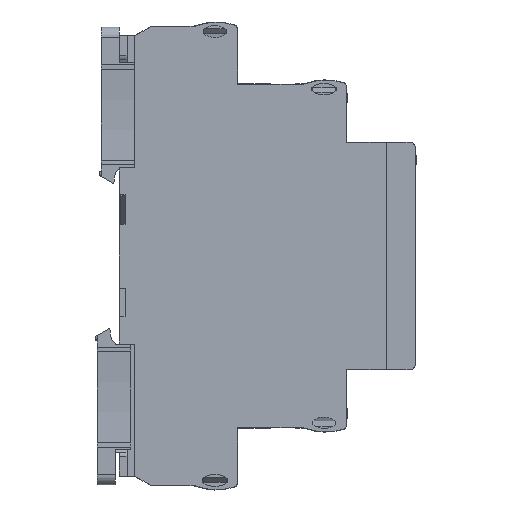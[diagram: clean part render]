
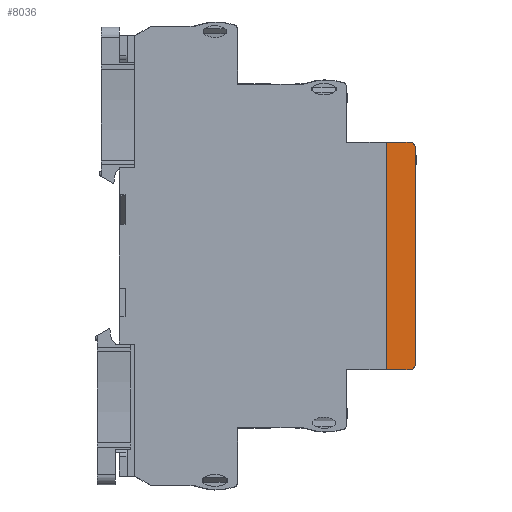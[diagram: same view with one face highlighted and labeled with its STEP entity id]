
A CAD part, front view. The second image highlights one B-rep face of the part: STEP entity #8036.
In plain terms, the highlighted planar face has unit normal (0, -1, 0) as drawn and (-1, 0, 0) by its records, which use the part's own axes.
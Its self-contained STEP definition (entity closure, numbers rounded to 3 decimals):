
#8036=ADVANCED_FACE('',(#94686),#94688,.T.);
#94686=FACE_BOUND('',#94687,.T.);
#94687=EDGE_LOOP('',(#160556,#160557,#160558,#160559,#160560,#160561));
#94688=PLANE('',#94689);
#94689=AXIS2_PLACEMENT_3D('',#94690,#94691,#94692);
#94690=CARTESIAN_POINT('',(-6.5,-22.6,1.5));
#94691=DIRECTION('',(-1.,0.,0.));
#94692=DIRECTION('',(0.,0.,1.));
#160556=ORIENTED_EDGE('',*,*,#223542,.T.);
#160557=ORIENTED_EDGE('',*,*,#223543,.T.);
#160558=ORIENTED_EDGE('',*,*,#223493,.F.);
#160559=ORIENTED_EDGE('',*,*,#223544,.T.);
#160560=ORIENTED_EDGE('',*,*,#223545,.F.);
#160561=ORIENTED_EDGE('',*,*,#223546,.T.);
#223493=EDGE_CURVE('',#252387,#252388,#252389,.T.);
#223542=EDGE_CURVE('',#252473,#252474,#252475,.T.);
#223543=EDGE_CURVE('',#252474,#252388,#252476,.T.);
#223544=EDGE_CURVE('',#252387,#252477,#252478,.T.);
#223545=EDGE_CURVE('',#252479,#252477,#252480,.T.);
#223546=EDGE_CURVE('',#252479,#252473,#252481,.T.);
#252387=VERTEX_POINT('',#302223);
#252388=VERTEX_POINT('',#302224);
#252389=LINE('',#302225,#302226);
#252473=VERTEX_POINT('',#302408);
#252474=VERTEX_POINT('',#302409);
#252475=LINE('',#302410,#302411);
#252476=CIRCLE('',#302413,1.);
#252477=VERTEX_POINT('',#302417);
#252478=CIRCLE('',#302418,1.);
#252479=VERTEX_POINT('',#302422);
#252480=LINE('',#302423,#302424);
#252481=LINE('',#302426,#302427);
#302223=CARTESIAN_POINT('',(-6.5,-21.6,0.));
#302224=CARTESIAN_POINT('',(-6.5,21.6,0.));
#302225=CARTESIAN_POINT('',(-6.5,-21.6,0.));
#302226=VECTOR('',#302227,1.);
#302227=DIRECTION('',(0.,1.,0.));
#302408=CARTESIAN_POINT('',(-6.5,22.6,5.75));
#302409=CARTESIAN_POINT('',(-6.5,22.6,1.));
#302410=CARTESIAN_POINT('',(-6.5,22.6,5.75));
#302411=VECTOR('',#302412,1.);
#302412=DIRECTION('',(0.,0.,-1.));
#302413=AXIS2_PLACEMENT_3D('',#302414,#302415,#302416);
#302414=CARTESIAN_POINT('',(-6.5,21.6,1.));
#302415=DIRECTION('',(-1.,0.,0.));
#302416=DIRECTION('',(0.,1.,0.));
#302417=CARTESIAN_POINT('',(-6.5,-22.6,1.));
#302418=AXIS2_PLACEMENT_3D('',#302419,#302420,#302421);
#302419=CARTESIAN_POINT('',(-6.5,-21.6,1.));
#302420=DIRECTION('',(-1.,0.,0.));
#302421=DIRECTION('',(0.,0.,-1.));
#302422=CARTESIAN_POINT('',(-6.5,-22.6,5.75));
#302423=CARTESIAN_POINT('',(-6.5,-22.6,5.75));
#302424=VECTOR('',#302425,1.);
#302425=DIRECTION('',(0.,0.,-1.));
#302426=CARTESIAN_POINT('',(-6.5,-22.6,5.75));
#302427=VECTOR('',#302428,1.);
#302428=DIRECTION('',(0.,1.,0.));
